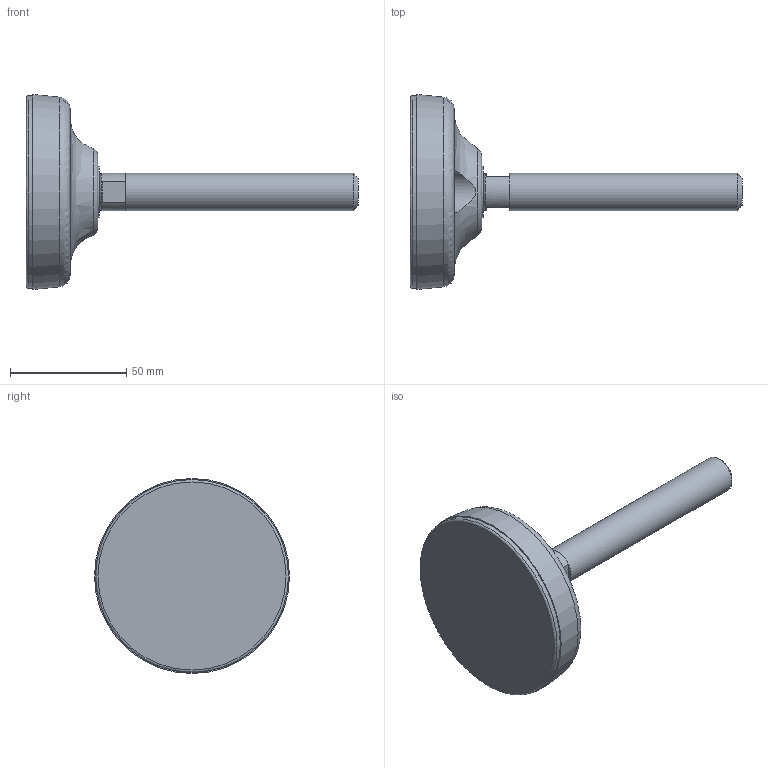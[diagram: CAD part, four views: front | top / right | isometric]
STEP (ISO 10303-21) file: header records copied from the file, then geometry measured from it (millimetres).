
FILE_DESCRIPTION(('STEP AP203'),'2;1');
FILE_NAME('12663.stp','2015-06-15T13:08:53',(''),(''),'2008.1.107','THINKDESIGN','');
FILE_SCHEMA(('CONFIG_CONTROL_DESIGN'));
Length unit declared in the file: millimetre
Bounding box: 143 x 84 x 84 mm (x, y, z)
Volume: 140747.4 mm3; surface area: 33073 mm2
Topology: 4 solids, 4 shells, 27 faces, 61 edges, 44 vertices
Faces by surface type: plane 14, bspline 7, cylinder 6
Full cylindrical faces by diameter (mm): 16 x2, 22 x1, 83 x1
Entity records: 1660 total; most frequent: CARTESIAN_POINT 937, DIRECTION 142, ORIENTED_EDGE 122, AXIS2_PLACEMENT_3D 64, EDGE_CURVE 61, VERTEX_POINT 44, CIRCLE 44, EDGE_LOOP 29
